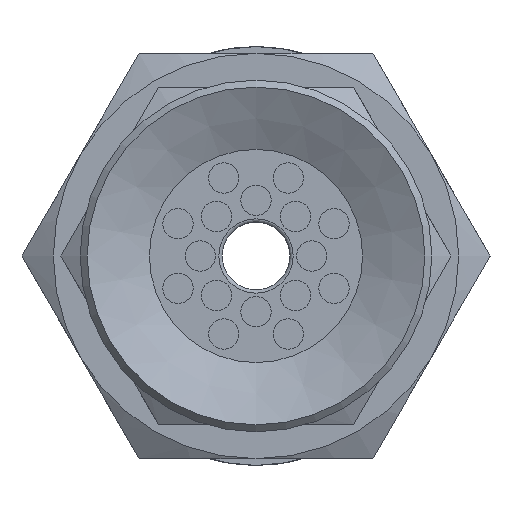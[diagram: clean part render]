
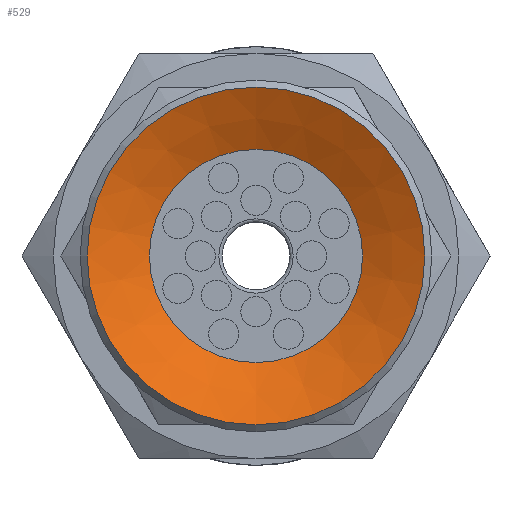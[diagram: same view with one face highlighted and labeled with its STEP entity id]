
A CAD part, front view. The second image highlights one B-rep face of the part: STEP entity #529.
In plain terms, the highlighted conical face has half-angle 64 degrees and reference radius 5 mm.
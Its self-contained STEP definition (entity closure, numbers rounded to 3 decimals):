
#529=ADVANCED_FACE('',(#827,#828),#829,.F.);
#827=FACE_BOUND('',#1278,.T.);
#828=FACE_OUTER_BOUND('',#1279,.T.);
#829=CONICAL_SURFACE('',#1280,5.0,1.117);
#1278=EDGE_LOOP('',(#2241));
#1279=EDGE_LOOP('',(#2242));
#1280=AXIS2_PLACEMENT_3D('',#2243,#2244,#2245);
#2241=ORIENTED_EDGE('',*,*,#2919,.T.);
#2242=ORIENTED_EDGE('',*,*,#2920,.F.);
#2243=CARTESIAN_POINT('',(0.0,0.,0.));
#2244=DIRECTION('',(0.0,0.,-1.0));
#2245=DIRECTION('',(0.0,1.0,0.));
#2919=EDGE_CURVE('',#3287,#3287,#3288,.T.);
#2920=EDGE_CURVE('',#3289,#3289,#3290,.T.);
#3287=VERTEX_POINT('',#4057);
#3288=CIRCLE('',#4058,3.155);
#3289=VERTEX_POINT('',#4059);
#3290=CIRCLE('',#4060,5.0);
#4057=CARTESIAN_POINT('',(0.0,-3.155,0.9));
#4058=AXIS2_PLACEMENT_3D('',#4832,#4833,#4834);
#4059=CARTESIAN_POINT('',(0.0,-5.0,0.));
#4060=AXIS2_PLACEMENT_3D('',#4835,#4836,#4837);
#4832=CARTESIAN_POINT('',(0.0,0.,0.9));
#4833=DIRECTION('',(0.0,0.,1.0));
#4834=DIRECTION('',(0.0,-1.0,0.));
#4835=CARTESIAN_POINT('',(0.0,0.,0.));
#4836=DIRECTION('',(0.0,0.,1.0));
#4837=DIRECTION('',(0.0,-1.0,0.));
